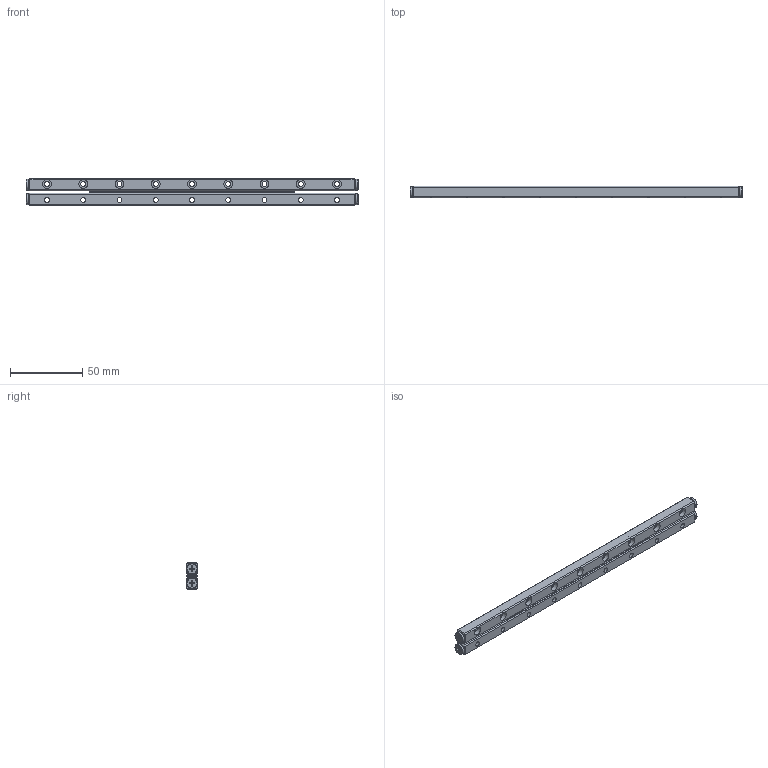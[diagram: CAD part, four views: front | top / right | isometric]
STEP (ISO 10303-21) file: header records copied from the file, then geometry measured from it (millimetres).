
FILE_DESCRIPTION (( 'STEP AP203' ), '1' );
FILE_NAME ('GRG03-0225-模糊化軌道組.STEP', '2022-10-03T06:51:16', ( '' ), ( '' ), 'SwSTEP 2.0', 'SolidWorks 2019', '' );
FILE_SCHEMA (( 'CONFIG_CONTROL_DESIGN' ));
Length unit declared in the file: millimetre
Products named in the file (1): GRG03-0225-模糊化軌道組
Bounding box: 229 x 8 x 18 mm (x, y, z)
Volume: 27022.5 mm3; surface area: 20178.3 mm2
Topology: 3 solids, 31 shells, 892 faces, 2116 edges, 1354 vertices
Faces by surface type: plane 614, cylinder 126, cone 84, torus 68
Full cylindrical faces by diameter (mm): 2 x4, 2.55 x28, 3.4 x18, 6 x18, 7.5 x4
Entity records: 24717 total; most frequent: CARTESIAN_POINT 5277, DIRECTION 3856, ORIENTED_EDGE 3776, EDGE_CURVE 1888, AXIS2_PLACEMENT_3D 1297, VERTEX_POINT 1266, VECTOR 1262, LINE 1262
